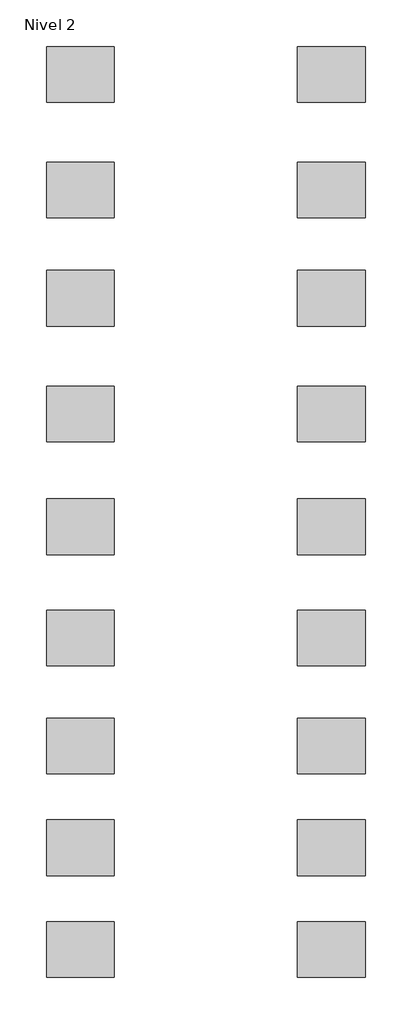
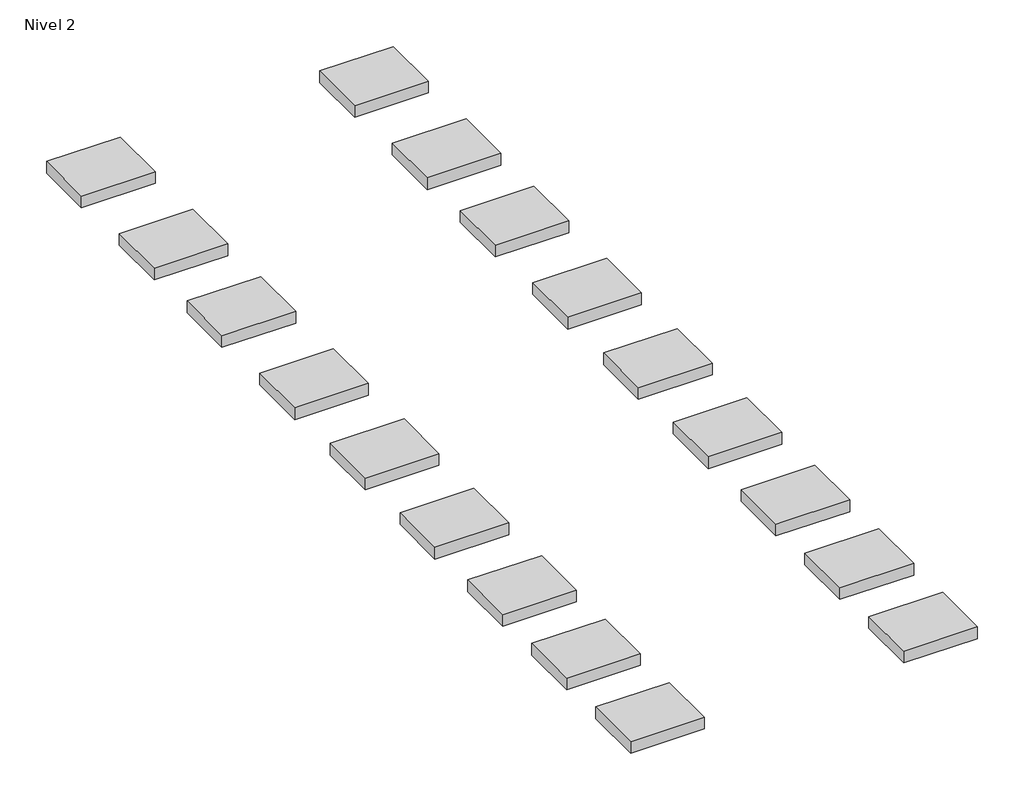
# One storey: 18 furniture elements.
"""IFC4 building model written with IfcOpenShell, lengths in millimetres."""

from ifc_helpers import new_model, si_unit, origin, place, context, project, spatial, transform, mapped, element, save
from components import furniture_fc90d0a3

model = new_model("IFC4")

# Units and contexts
model_context = context("Model", 3, world=origin())
ifc_project = project(units=[si_unit("LENGTHUNIT", "METRE", prefix="MILLI")], contexts=[model_context])

# Site, building, storey
site = spatial("IfcSite", under=ifc_project)
building = spatial("IfcBuilding", under=site)
storey = spatial("IfcBuildingStorey", under=building, Name="Nivel 2", Elevation=4000.0)

# Furniture
placement = place(None, origin())
furniture_shape = furniture_fc90d0a3(model_context)
element("IfcFurniture", 1, ObjectType="Victory : Victory 10", at=placement, inside=storey, context=model_context, shape_type="MappedRepresentation", body=[
    mapped(furniture_shape, transform((-9674.6867993, 10060.919512, 4000.0), x_axis=(1.0, 0.0, 0.0), y_axis=(0.0, 1.0, 0.0), z_axis=(0.0, 0.0, 1.0))),
])
element("IfcFurniture", 2, ObjectType="Victory : Victory 28", at=placement, inside=storey, context=model_context, shape_type="MappedRepresentation", body=[
    mapped(furniture_shape, transform((-9674.6867993, 7528.1002461, 4000.0), x_axis=(1.0, 0.0, 0.0), y_axis=(0.0, 1.0, 0.0), z_axis=(0.0, 0.0, 1.0))),
])
element("IfcFurniture", 3, ObjectType="Victory : Victory 30", at=placement, inside=storey, context=model_context, shape_type="MappedRepresentation", body=[
    mapped(furniture_shape, transform((-9674.6867993, 5160.919512, 4000.0), x_axis=(1.0, 0.0, 0.0), y_axis=(0.0, 1.0, 0.0), z_axis=(0.0, 0.0, 1.0))),
])
element("IfcFurniture", 4, ObjectType="Victory : Victory 32", at=placement, inside=storey, context=model_context, shape_type="MappedRepresentation", body=[
    mapped(furniture_shape, transform((-9674.6867993, 2628.1002461, 4000.0), x_axis=(1.0, 0.0, 0.0), y_axis=(0.0, 1.0, 0.0), z_axis=(0.0, 0.0, 1.0))),
])
element("IfcFurniture", 5, ObjectType="Victory : Victory 56", at=placement, inside=storey, context=model_context, shape_type="MappedRepresentation", body=[
    mapped(furniture_shape, transform((-9674.6867993, 162.8228274, 4000.0), x_axis=(1.0, 0.0, 0.0), y_axis=(0.0, 1.0, 0.0), z_axis=(0.0, 0.0, 1.0))),
])
element("IfcFurniture", 6, ObjectType="Victory : Victory 60", at=placement, inside=storey, context=model_context, shape_type="MappedRepresentation", body=[
    mapped(furniture_shape, transform((-9674.6867993, -2268.6836678, 4000.0), x_axis=(1.0, 0.0, 0.0), y_axis=(0.0, 1.0, 0.0), z_axis=(0.0, 0.0, 1.0))),
])
element("IfcFurniture", 7, ObjectType="Victory : Victory 248", at=placement, inside=storey, context=model_context, shape_type="MappedRepresentation", body=[
    mapped(furniture_shape, transform((-9674.6867993, -4632.6483159, 4000.0), x_axis=(1.0, 0.0, 0.0), y_axis=(0.0, 1.0, 0.0), z_axis=(0.0, 0.0, 1.0))),
])
element("IfcFurniture", 8, ObjectType="Victory : Victory 271", at=placement, inside=storey, context=model_context, shape_type="MappedRepresentation", body=[
    mapped(furniture_shape, transform((-9674.6867993, -6861.5292699, 4000.0), x_axis=(1.0, 0.0, 0.0), y_axis=(0.0, 1.0, 0.0), z_axis=(0.0, 0.0, 1.0))),
])
element("IfcFurniture", 9, ObjectType="Victory : Victory 314", at=placement, inside=storey, context=model_context, shape_type="MappedRepresentation", body=[
    mapped(furniture_shape, transform((-9674.6867993, -9090.4102238, 4000.0), x_axis=(1.0, 0.0, 0.0), y_axis=(0.0, 1.0, 0.0), z_axis=(0.0, 0.0, 1.0))),
])
element("IfcFurniture", 10, ObjectType="Victory : Victory 324", at=placement, inside=storey, context=model_context, shape_type="MappedRepresentation", body=[
    mapped(furniture_shape, transform((-4174.6867993, 10060.919512, 4000.0), x_axis=(1.0, 0.0, 0.0), y_axis=(0.0, 1.0, 0.0), z_axis=(0.0, 0.0, 1.0))),
])
element("IfcFurniture", 11, ObjectType="Victory : Victory 336", at=placement, inside=storey, context=model_context, shape_type="MappedRepresentation", body=[
    mapped(furniture_shape, transform((-4174.6867993, 7528.1002461, 4000.0), x_axis=(1.0, 0.0, 0.0), y_axis=(0.0, 1.0, 0.0), z_axis=(0.0, 0.0, 1.0))),
])
element("IfcFurniture", 12, ObjectType="Victory : Victory 342", at=placement, inside=storey, context=model_context, shape_type="MappedRepresentation", body=[
    mapped(furniture_shape, transform((-4174.6867993, 5160.919512, 4000.0), x_axis=(1.0, 0.0, 0.0), y_axis=(0.0, 1.0, 0.0), z_axis=(0.0, 0.0, 1.0))),
])
element("IfcFurniture", 13, ObjectType="Victory : Victory 347", at=placement, inside=storey, context=model_context, shape_type="MappedRepresentation", body=[
    mapped(furniture_shape, transform((-4174.6867993, 2628.1002461, 4000.0), x_axis=(1.0, 0.0, 0.0), y_axis=(0.0, 1.0, 0.0), z_axis=(0.0, 0.0, 1.0))),
])
element("IfcFurniture", 14, ObjectType="Victory : Victory 348", at=placement, inside=storey, context=model_context, shape_type="MappedRepresentation", body=[
    mapped(furniture_shape, transform((-4174.6867993, 162.8228274, 4000.0), x_axis=(1.0, 0.0, 0.0), y_axis=(0.0, 1.0, 0.0), z_axis=(0.0, 0.0, 1.0))),
])
element("IfcFurniture", 15, ObjectType="Victory : Victory 349", at=placement, inside=storey, context=model_context, shape_type="MappedRepresentation", body=[
    mapped(furniture_shape, transform((-4174.6867993, -2268.6836678, 4000.0), x_axis=(1.0, 0.0, 0.0), y_axis=(0.0, 1.0, 0.0), z_axis=(0.0, 0.0, 1.0))),
])
element("IfcFurniture", 16, ObjectType="Victory : Victory 395", at=placement, inside=storey, context=model_context, shape_type="MappedRepresentation", body=[
    mapped(furniture_shape, transform((-4174.6867993, -4632.6483159, 4000.0), x_axis=(1.0, 0.0, 0.0), y_axis=(0.0, 1.0, 0.0), z_axis=(0.0, 0.0, 1.0))),
])
element("IfcFurniture", 17, ObjectType="Victory : Victory 407", at=placement, inside=storey, context=model_context, shape_type="MappedRepresentation", body=[
    mapped(furniture_shape, transform((-4174.6867993, -6861.5292699, 4000.0), x_axis=(1.0, 0.0, 0.0), y_axis=(0.0, 1.0, 0.0), z_axis=(0.0, 0.0, 1.0))),
])
element("IfcFurniture", 18, ObjectType="Victory : Victory 732", at=placement, inside=storey, context=model_context, shape_type="MappedRepresentation", body=[
    mapped(furniture_shape, transform((-4174.6867993, -9090.4102238, 4000.0), x_axis=(1.0, 0.0, 0.0), y_axis=(0.0, 1.0, 0.0), z_axis=(0.0, 0.0, 1.0))),
])

save(model, "model.ifc")
